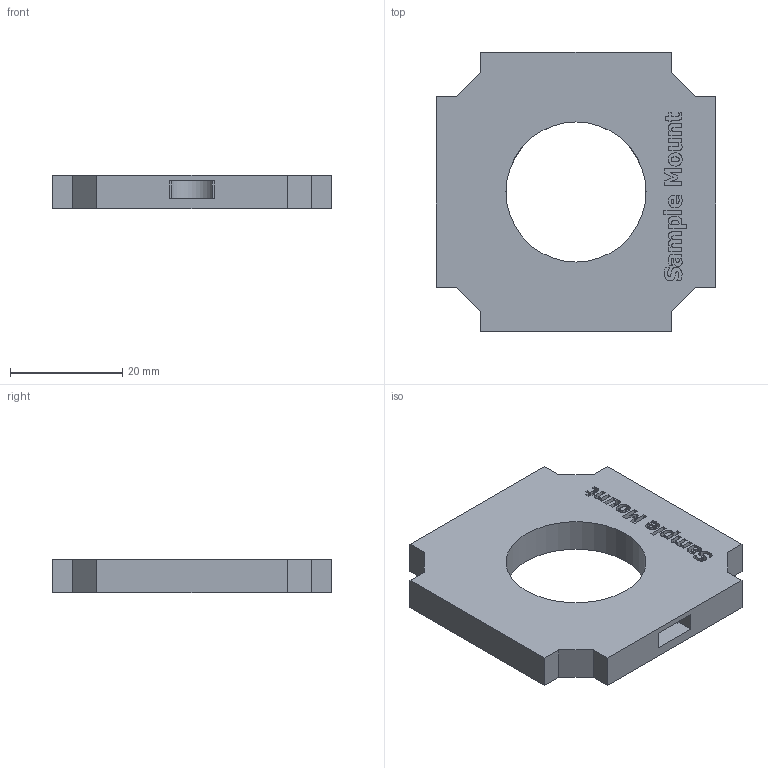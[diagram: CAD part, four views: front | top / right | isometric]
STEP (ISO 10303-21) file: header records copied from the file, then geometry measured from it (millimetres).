
FILE_DESCRIPTION(/* description */ (''),/* implementation_level */ '2;1');
FILE_NAME(/* name */ 'C:\Users\diederichbenedict\Dropbox\Dokumente\Promotion\PROJECTS\openUC2-CAD\INVENTOR\20_Cube_insert_Sample_holder_v3.stp',/* time_stamp */ '2023-09-08T14:06:57+02:00',/* author */ ('diederichbenedict'),/* organization */ (''),/* preprocessor_version */ 'ST-DEVELOPER v18.1',/* originating_system */ 'Autodesk Inventor 2022',/* authorisation */ '');
FILE_SCHEMA (('AUTOMOTIVE_DESIGN { 1 0 10303 214 3 1 1 }'));
Length unit declared in the file: millimetre
Products named in the file (1): 20_Cube_insert_Sample_holder_v3
Bounding box: 49.8 x 49.8 x 6 mm (x, y, z)
Volume: 10195.9 mm3; surface area: 5672.1 mm2
Topology: 1 solids, 1 shells, 213 faces, 582 edges, 388 vertices
Faces by surface type: plane 124, bspline 86, cylinder 3
Full cylindrical faces by diameter (mm): 25 x1
Entity records: 7163 total; most frequent: CARTESIAN_POINT 2302, ORIENTED_EDGE 1164, DIRECTION 672, EDGE_CURVE 582, LINE 404, VECTOR 404, VERTEX_POINT 388, EDGE_LOOP 232
